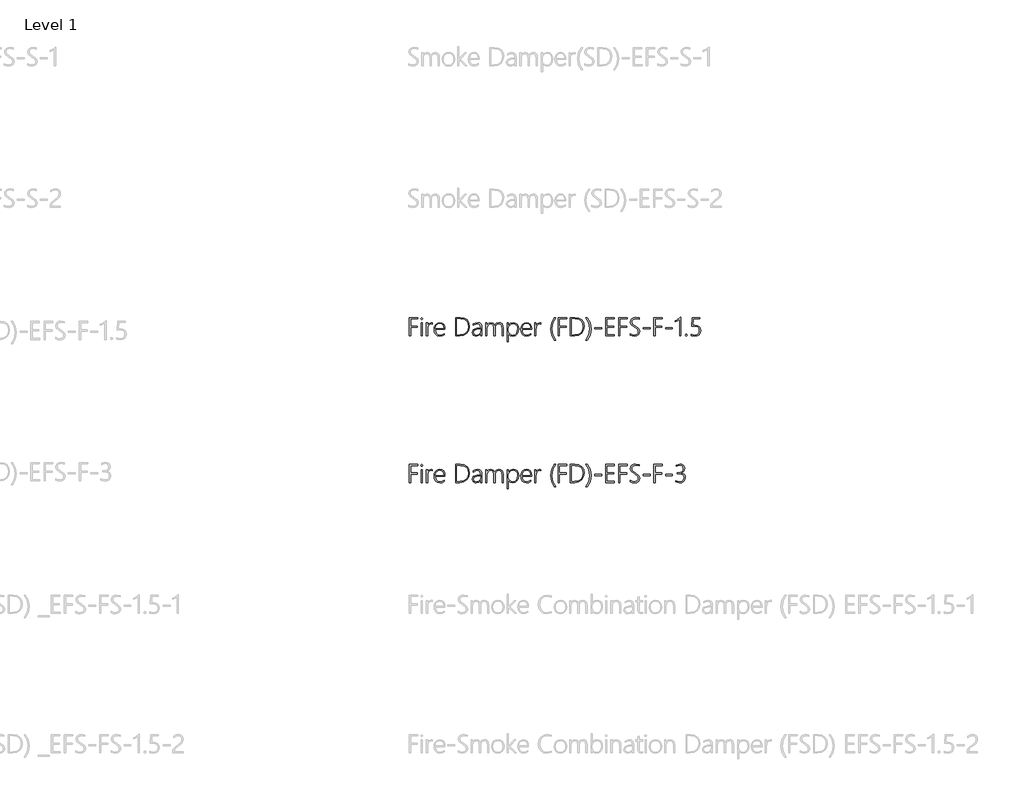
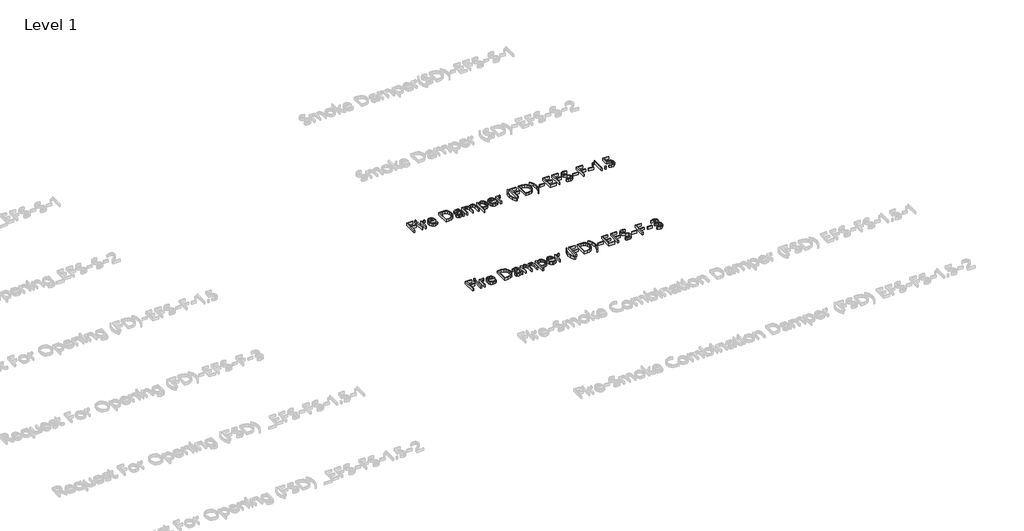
# One storey, part 10 of 13: 2 proxies.
"""IFC4 building model written with IfcOpenShell, lengths in millimetres."""

from ifc_helpers import new_model, si_unit, origin, origin_with_axes, place, context, project, spatial, polyline, outline, extrude, element, save

model = new_model("IFC4")

# Units and contexts
model_context = context("Model", 3, world=origin())
ifc_project = project(units=[si_unit("LENGTHUNIT", "METRE", prefix="MILLI")], contexts=[model_context])

# Site, building, storey
site = spatial("IfcSite", under=ifc_project)
building = spatial("IfcBuilding", under=site)
storey = spatial("IfcBuildingStorey", under=building, Name="Level 1", Elevation=0.0)

# Proxies
placement = place(None, origin())
element("IfcBuildingElementProxy", 1, Name="24\" Arial", ObjectType="24\" Arial", at=placement, inside=storey, context=model_context, shape_type="SweptSolid", body=[
    extrude(outline(polyline([(-11432.1552252, 7848.844524), (-11432.1552252, 7808.0508885), (-11395.1999406, 7808.0508885), (-11395.1999406, 7801.7726558), (-11432.1552252, 7801.7726558), (-11432.1552252, 7755.1768621), (-11439.0583058, 7755.1768621), (-11439.0583058, 7855.1822661), (-11392.3137388, 7855.1822661), (-11392.3137388, 7848.844524), (-11432.1552252, 7848.844524)])), origin_with_axes(), (0.0, 0.0, 1.0), 20.0),
    extrude(outline(polyline([(-11370.6523481, 7844.589608), (-11374.3419256, 7846.1219729), (-11375.9486771, 7850.0347103), (-11374.312171, 7853.7540425), (-11370.6523481, 7855.1822661), (-11366.8437519, 7853.7837972), (-11365.2072458, 7850.0347103), (-11366.8139973, 7846.1963595), (-11370.6523481, 7844.589608)])), origin_with_axes(), (0.0, 0.0, 1.0), 20.0),
    extrude(outline(polyline([(-11373.8063418, 7755.1768621), (-11373.8063418, 7826.5880402), (-11367.3793358, 7826.5880402), (-11367.3793358, 7755.1768621), (-11373.8063418, 7755.1768621)])), origin_with_axes(), (0.0, 0.0, 1.0), 20.0),
    extrude(outline(polyline([(-11311.5595982, 7819.8932422), (-11319.0875266, 7822.1843509), (-11326.8348955, 7820.0048222), (-11333.2358662, 7813.4662362), (-11337.5316949, 7802.9182101), (-11338.9636378, 7788.7103611), (-11338.9636378, 7755.1768621), (-11345.2418706, 7755.1768621), (-11345.2418706, 7826.5880402), (-11338.9636378, 7826.5880402), (-11338.9636378, 7810.7585624), (-11330.9298803, 7823.4489238), (-11318.6709614, 7827.9865091), (-11311.5595982, 7826.7368135), (-11311.5595982, 7819.8932422)])), origin_with_axes(), (0.0, 0.0, 1.0), 20.0),
    extrude(outline(polyline([(-11296.0871763, 7790.6146592), (-11294.3874415, 7777.4928552), (-11289.288237, 7767.5845543), (-11281.2284442, 7761.3583922), (-11270.6469441, 7759.2830048), (-11258.7748357, 7761.4997268), (-11247.2002739, 7768.1498928), (-11247.2002739, 7761.3063215), (-11258.9384863, 7755.3925834), (-11271.956149, 7753.4213373), (-11284.4382279, 7755.8984125), (-11294.2721422, 7763.3296383), (-11300.6545162, 7775.2761333), (-11302.7819742, 7791.2990163), (-11300.5578136, 7805.6928319), (-11293.8853316, 7817.6318883), (-11283.6571681, 7825.6656458), (-11270.7659627, 7828.343565), (-11259.0091537, 7826.004105), (-11250.3393903, 7818.9857252), (-11244.99471, 7807.9281506), (-11243.2131498, 7793.4711063), (-11243.2131498, 7790.6146592), (-11296.0871763, 7790.6146592)]), holes=[polyline([(-11249.9079478, 7796.4763268), (-11251.6188406, 7807.4260407), (-11255.8588793, 7815.6383262), (-11262.4123426, 7820.7710046), (-11271.0635093, 7822.4818974), (-11280.2316631, 7820.79704), (-11287.6814855, 7815.7424675), (-11293.0112886, 7807.5562174), (-11295.8193844, 7796.4763268), (-11249.9079478, 7796.4763268)])]), origin_with_axes(), (0.0, 0.0, 1.0), 20.0),
    extrude(outline(polyline([(-11183.8823627, 7755.1768621), (-11183.8823627, 7855.1822661), (-11158.828941, 7855.1822661), (-11136.9295131, 7852.080343), (-11120.9810166, 7842.7745739), (-11111.2512436, 7827.5178732), (-11108.0079859, 7806.5631557), (-11111.4855615, 7785.8576333), (-11121.9182883, 7769.4442204), (-11138.4730359, 7758.7437017), (-11160.3166739, 7755.1768621), (-11183.8823627, 7755.1768621)]), holes=[polyline([(-11176.9792821, 7848.844524), (-11176.9792821, 7761.4550948), (-11161.268823, 7761.4550948), (-11141.6158716, 7764.3412966), (-11127.1104761, 7772.999902), (-11118.1617628, 7787.096171), (-11115.1788584, 7806.2953637), (-11117.9720769, 7824.9106214), (-11126.3517323, 7838.207234), (-11140.3178247, 7846.1852015), (-11159.870354, 7848.844524), (-11176.9792821, 7848.844524)])]), origin_with_axes(), (0.0, 0.0, 1.0), 20.0),
    extrude(outline(polyline([(-11045.4636958, 7755.1768621), (-11045.4636958, 7769.4590977), (-11055.6844207, 7757.7803946), (-11070.1600616, 7753.4213373), (-11079.2761448, 7754.8532802), (-11086.2722086, 7759.1491089), (-11090.7242492, 7765.6244662), (-11092.2082628, 7773.5949951), (-11090.6610206, 7782.0137035), (-11086.019294, 7788.5839038), (-11067.4523877, 7796.1787802), (-11045.4636958, 7799.4517925), (-11049.7855598, 7816.7243712), (-11055.1878898, 7821.0425159), (-11062.7511518, 7822.4818974), (-11074.4001003, 7820.1089635), (-11085.7217474, 7812.9901617), (-11085.7217474, 7820.7263727), (-11074.9356841, 7826.1119657), (-11062.126304, 7828.343565), (-11052.363057, 7826.6326722), (-11045.0917626, 7821.4999938), (-11040.572774, 7813.1091803), (-11039.0664444, 7801.6238825), (-11039.0664444, 7755.1768621), (-11045.4636958, 7755.1768621)]), holes=[polyline([(-11065.1315244, 7790.7336778), (-11080.9014929, 7785.5414901), (-11085.4242009, 7773.862787), (-11081.2139168, 7763.4040249), (-11069.4459498, 7759.2830048), (-11060.0137233, 7761.1947416), (-11052.307267, 7766.9299518), (-11047.1745886, 7775.6778211), (-11045.4636958, 7786.6275351), (-11045.4636958, 7793.590125), (-11065.1315244, 7790.7336778)])]), origin_with_axes(), (0.0, 0.0, 1.0), 20.0),
    extrude(outline(polyline([(-10928.1410811, 7755.1768621), (-10928.1410811, 7798.1425876), (-10932.3662425, 7817.0367951), (-10937.8187835, 7821.1206219), (-10945.7260837, 7822.4818974), (-10953.577594, 7820.6668633), (-10960.2909886, 7815.221761), (-10964.8992412, 7807.0392302), (-10966.4353253, 7797.0119106), (-10966.4353253, 7755.1768621), (-10972.8623314, 7755.1768621), (-10972.8623314, 7798.6186621), (-10977.392478, 7816.5160886), (-10983.0551613, 7820.9904452), (-10990.9829178, 7822.4818974), (-10998.968324, 7820.6594247), (-11005.4883134, 7815.1920064), (-11009.828774, 7806.8309476), (-11011.2755943, 7796.3275535), (-11011.2755943, 7755.1768621), (-11017.7026003, 7755.1768621), (-11017.7026003, 7826.5880402), (-11011.2755943, 7826.5880402), (-11011.2755943, 7814.7456865), (-11001.8136132, 7824.9440954), (-10989.1678837, 7828.343565), (-10975.8229198, 7823.8357344), (-10968.3098688, 7812.008258), (-10958.728869, 7824.044017), (-10945.1607452, 7828.343565), (-10934.9158447, 7826.5303905), (-10927.5980586, 7821.0908672), (-10923.2073869, 7812.024995), (-10921.7438297, 7799.3327739), (-10921.7438297, 7755.1768621), (-10928.1410811, 7755.1768621)])), origin_with_axes(), (0.0, 0.0, 1.0), 20.0),
    extrude(outline(polyline([(-10892.9413212, 7767.8821009), (-10893.2091131, 7722.3277202), (-10899.6361192, 7722.3277202), (-10899.6361192, 7826.5880402), (-10893.2091131, 7826.5880402), (-10893.2091131, 7811.8594847), (-10881.9469753, 7824.044017), (-10866.2216387, 7828.343565), (-10854.1152124, 7825.9966664), (-10844.9916906, 7818.9559705), (-10839.2676383, 7807.8909573), (-10837.3596209, 7793.4711063), (-10839.5465882, 7777.2510986), (-10846.1074902, 7764.4751926), (-10856.2612671, 7756.1848011), (-10869.2268591, 7753.4213373), (-10883.1743549, 7757.0365282), (-10892.9413212, 7767.8821009)]), holes=[polyline([(-10893.2091131, 7794.45301), (-10893.2091131, 7785.4373488), (-10891.516817, 7775.4546612), (-10886.4399285, 7766.9894611), (-10878.6107343, 7761.2096189), (-10868.6615207, 7759.2830048), (-10858.7420617, 7761.6299034), (-10850.8831128, 7768.6705993), (-10845.7615923, 7779.52733), (-10844.0544189, 7793.3223331), (-10845.6239771, 7805.335776), (-10850.3326516, 7814.5969132), (-10857.6522974, 7820.5106514), (-10867.0547691, 7822.4818974), (-10878.1346598, 7820.3879134), (-10886.3804192, 7814.1059614), (-10891.5019397, 7805.0047555), (-10893.2091131, 7794.45301)])]), origin_with_axes(), (0.0, 0.0, 1.0), 20.0),
    extrude(outline(polyline([(-10818.1083575, 7790.6146592), (-10816.4086227, 7777.4928552), (-10811.3094182, 7767.5845543), (-10803.2496254, 7761.3583922), (-10792.6681253, 7759.2830048), (-10780.7960169, 7761.4997268), (-10769.2214551, 7768.1498928), (-10769.2214551, 7761.3063215), (-10780.9596675, 7755.3925834), (-10793.9773302, 7753.4213373), (-10806.4594091, 7755.8984125), (-10816.2933234, 7763.3296383), (-10822.6756974, 7775.2761333), (-10824.8031554, 7791.2990163), (-10822.5789948, 7805.6928319), (-10815.9065128, 7817.6318883), (-10805.6783493, 7825.6656458), (-10792.7871439, 7828.343565), (-10781.0303349, 7826.004105), (-10772.3605715, 7818.9857252), (-10767.0158912, 7807.9281506), (-10765.234331, 7793.4711063), (-10765.234331, 7790.6146592), (-10818.1083575, 7790.6146592)]), holes=[polyline([(-10771.929129, 7796.4763268), (-10773.6400218, 7807.4260407), (-10777.8800605, 7815.6383262), (-10784.4335238, 7820.7710046), (-10793.0846905, 7822.4818974), (-10802.2528443, 7820.79704), (-10809.7026667, 7815.7424675), (-10815.0324698, 7807.5562174), (-10817.8405656, 7796.4763268), (-10771.929129, 7796.4763268)])]), origin_with_axes(), (0.0, 0.0, 1.0), 20.0),
    extrude(outline(polyline([(-10713.6100002, 7819.8932422), (-10721.1379285, 7822.1843509), (-10728.8852975, 7820.0048222), (-10735.2862682, 7813.4662362), (-10739.5820969, 7802.9182101), (-10741.0140398, 7788.7103611), (-10741.0140398, 7755.1768621), (-10747.2922725, 7755.1768621), (-10747.2922725, 7826.5880402), (-10741.0140398, 7826.5880402), (-10741.0140398, 7810.7585624), (-10732.9802823, 7823.4489238), (-10720.7213633, 7827.9865091), (-10713.6100002, 7826.7368135), (-10713.6100002, 7819.8932422)])), origin_with_axes(), (0.0, 0.0, 1.0), 20.0),
    extrude(outline(polyline([(-10639.5209029, 7732.4443037), (-10655.365258, 7759.9748006), (-10660.6467098, 7793.1735598), (-10655.2983101, 7827.5104346), (-10639.253111, 7855.1822661), (-10632.4095398, 7855.1822661), (-10648.7894787, 7827.1608173), (-10654.2494584, 7793.3223331), (-10648.8638654, 7760.7707377), (-10632.7070863, 7732.4443037), (-10639.5209029, 7732.4443037)])), origin_with_axes(), (0.0, 0.0, 1.0), 20.0),
    extrude(outline(polyline([(-10611.4027515, 7848.844524), (-10611.4027515, 7808.0508885), (-10574.4474669, 7808.0508885), (-10574.4474669, 7801.7726558), (-10611.4027515, 7801.7726558), (-10611.4027515, 7755.1768621), (-10618.3058321, 7755.1768621), (-10618.3058321, 7855.1822661), (-10571.5612651, 7855.1822661), (-10571.5612651, 7848.844524), (-10611.4027515, 7848.844524)])), origin_with_axes(), (0.0, 0.0, 1.0), 20.0),
    extrude(outline(polyline([(-10551.6553992, 7755.1768621), (-10551.6553992, 7855.1822661), (-10526.6019775, 7855.1822661), (-10504.7025496, 7852.080343), (-10488.7540531, 7842.7745739), (-10479.0242801, 7827.5178732), (-10475.7810224, 7806.5631557), (-10479.258598, 7785.8576333), (-10489.6913248, 7769.4442204), (-10506.2460724, 7758.7437017), (-10528.0897104, 7755.1768621), (-10551.6553992, 7755.1768621)]), holes=[polyline([(-10544.7523186, 7848.844524), (-10544.7523186, 7761.4550948), (-10529.0418594, 7761.4550948), (-10509.3889081, 7764.3412966), (-10494.8835126, 7772.999902), (-10485.9347993, 7787.096171), (-10482.9518949, 7806.2953637), (-10485.7451134, 7824.9106214), (-10494.1247688, 7838.207234), (-10508.0908612, 7846.1852015), (-10527.6433905, 7848.844524), (-10544.7523186, 7848.844524)])]), origin_with_axes(), (0.0, 0.0, 1.0), 20.0),
    extrude(outline(polyline([(-10458.6423397, 7732.4443037), (-10465.4859109, 7732.4443037), (-10449.3068159, 7760.7707377), (-10443.9137842, 7793.3223331), (-10449.3737639, 7827.1608173), (-10465.7537028, 7855.1822661), (-10458.9101316, 7855.1822661), (-10442.8649325, 7827.4360479), (-10437.5165328, 7793.1735598), (-10442.7979845, 7759.900414), (-10458.6423397, 7732.4443037)])), origin_with_axes(), (0.0, 0.0, 1.0), 20.0),
    extrude(outline(polyline([(-10417.253611, 7793.8876715), (-10417.253611, 7800.1659043), (-10379.1081401, 7800.1659043), (-10379.1081401, 7793.8876715), (-10417.253611, 7793.8876715)])), origin_with_axes(), (0.0, 0.0, 1.0), 20.0),
    extrude(outline(polyline([(-10357.4169947, 7755.1768621), (-10357.4169947, 7855.1822661), (-10310.6724277, 7855.1822661), (-10310.6724277, 7848.844524), (-10350.5139142, 7848.844524), (-10350.5139142, 7808.7352457), (-10313.5586295, 7808.7352457), (-10313.5586295, 7802.4570129), (-10350.5139142, 7802.4570129), (-10350.5139142, 7761.4550948), (-10308.3813191, 7761.4550948), (-10308.3813191, 7755.1768621), (-10357.4169947, 7755.1768621)])), origin_with_axes(), (0.0, 0.0, 1.0), 20.0),
    extrude(outline(polyline([(-10278.150587, 7848.844524), (-10278.150587, 7808.0508885), (-10241.1953024, 7808.0508885), (-10241.1953024, 7801.7726558), (-10278.150587, 7801.7726558), (-10278.150587, 7755.1768621), (-10285.0536676, 7755.1768621), (-10285.0536676, 7855.1822661), (-10238.3091006, 7855.1822661), (-10238.3091006, 7848.844524), (-10278.150587, 7848.844524)])), origin_with_axes(), (0.0, 0.0, 1.0), 20.0),
    extrude(outline(polyline([(-10221.5274737, 7758.747421), (-10221.5274737, 7766.6026506), (-10210.7190944, 7761.4922881), (-10199.776819, 7759.788834), (-10181.9835338, 7764.6239659), (-10177.4310712, 7770.4298434), (-10175.9135837, 7778.1772124), (-10180.0048491, 7790.4212539), (-10197.693993, 7802.8735781), (-10216.9303791, 7817.7062749), (-10220.9621352, 7831.467804), (-10218.9053445, 7841.2608057), (-10212.7349724, 7849.4544945), (-10203.135376, 7855.0000188), (-10190.7909125, 7856.8485269), (-10172.9381179, 7853.8433065), (-10172.9381179, 7846.6129247), (-10191.6835522, 7850.5702942), (-10207.8254539, 7845.4078611), (-10212.2998105, 7839.5499129), (-10213.7912628, 7832.3009344), (-10209.7148747, 7820.1015248), (-10192.1001174, 7807.753342), (-10173.4439471, 7793.634757), (-10168.8022205, 7779.4566626), (-10170.7995019, 7769.0053392), (-10176.7913461, 7760.6814737), (-10186.4281358, 7755.2363714), (-10199.3602538, 7753.4213373), (-10211.2472395, 7755.0280888), (-10221.5274737, 7758.747421)])), origin_with_axes(), (0.0, 0.0, 1.0), 20.0),
    extrude(outline(polyline([(-10150.6518794, 7793.8876715), (-10150.6518794, 7800.1659043), (-10112.5064085, 7800.1659043), (-10112.5064085, 7793.8876715), (-10150.6518794, 7793.8876715)])), origin_with_axes(), (0.0, 0.0, 1.0), 20.0),
    extrude(outline(polyline([(-10083.9121826, 7848.844524), (-10083.9121826, 7808.0508885), (-10046.9568979, 7808.0508885), (-10046.9568979, 7801.7726558), (-10083.9121826, 7801.7726558), (-10083.9121826, 7755.1768621), (-10090.8152631, 7755.1768621), (-10090.8152631, 7855.1822661), (-10044.0706961, 7855.1822661), (-10044.0706961, 7848.844524), (-10083.9121826, 7848.844524)])), origin_with_axes(), (0.0, 0.0, 1.0), 20.0),
    extrude(outline(polyline([(-10026.8725041, 7793.8876715), (-10026.8725041, 7800.1659043), (-9988.7270331, 7800.1659043), (-9988.7270331, 7793.8876715), (-10026.8725041, 7793.8876715)])), origin_with_axes(), (0.0, 0.0, 1.0), 20.0),
    extrude(outline(polyline([(-9943.1726524, 7857.4138654), (-9943.1726524, 7755.1768621), (-9949.5996584, 7755.1768621), (-9949.5996584, 7847.2972818), (-9960.579127, 7839.3379109), (-9974.0579869, 7833.4316114), (-9974.0579869, 7839.293279), (-9965.9200881, 7842.596046), (-9958.7045836, 7846.672434), (-9952.0097857, 7851.5819525), (-9945.4042517, 7857.4138654), (-9943.1726524, 7857.4138654)])), origin_with_axes(), (0.0, 0.0, 1.0), 20.0),
    extrude(outline(polyline([(-9912.6146191, 7753.9271665), (-9916.5868659, 7755.5636726), (-9918.17874, 7759.5805514), (-9916.5868659, 7763.5825528), (-9912.6146191, 7765.1446724), (-9908.5679857, 7763.5825528), (-9906.9017248, 7759.5805514), (-9908.5679857, 7755.5636726), (-9912.6146191, 7753.9271665)])), origin_with_axes(), (0.0, 0.0, 1.0), 20.0),
    extrude(outline(polyline([(-9884.9130329, 7757.2001788), (-9884.9130329, 7764.5793339), (-9865.8105428, 7759.2830048), (-9854.8682675, 7760.975301), (-9846.6187886, 7766.0521894), (-9841.4414782, 7773.9334543), (-9839.7157081, 7784.0388799), (-9841.4544959, 7794.726381), (-9846.6708593, 7802.3603103), (-9855.3647983, 7806.9406679), (-9867.5363129, 7808.4674537), (-9881.9078125, 7807.6343233), (-9878.9025921, 7855.1822661), (-9837.2758262, 7855.1822661), (-9837.2758262, 7849.3205986), (-9873.1896978, 7849.3205986), (-9875.5105611, 7813.7637828), (-9865.185695, 7814.3291213), (-9851.2716732, 7812.3839105), (-9841.1885636, 7806.5482783), (-9835.0628235, 7797.2387899), (-9833.0209102, 7784.8720103), (-9835.1818422, 7772.1816489), (-9841.6646382, 7762.1394519), (-9852.1643129, 7755.600866), (-9866.3758813, 7753.4213373), (-9884.9130329, 7757.2001788)])), origin_with_axes(), (0.0, 0.0, 1.0), 20.0),
])
element("IfcBuildingElementProxy", 2, Name="24\" Arial", ObjectType="24\" Arial", at=placement, inside=storey, context=model_context, shape_type="SweptSolid", body=[
    extrude(outline(polyline([(-11432.1552252, 7040.379603), (-11432.1552252, 6999.5859675), (-11395.1999406, 6999.5859675), (-11395.1999406, 6993.3077347), (-11432.1552252, 6993.3077347), (-11432.1552252, 6946.711941), (-11439.0583058, 6946.711941), (-11439.0583058, 7046.717345), (-11392.3137388, 7046.717345), (-11392.3137388, 7040.379603), (-11432.1552252, 7040.379603)])), origin_with_axes(), (0.0, 0.0, 1.0), 20.0),
    extrude(outline(polyline([(-11370.6523481, 7036.1246869), (-11374.3419256, 7037.6570518), (-11375.9486771, 7041.5697893), (-11374.312171, 7045.2891214), (-11370.6523481, 7046.717345), (-11366.8437519, 7045.3188761), (-11365.2072458, 7041.5697893), (-11366.8139973, 7037.7314384), (-11370.6523481, 7036.1246869)])), origin_with_axes(), (0.0, 0.0, 1.0), 20.0),
    extrude(outline(polyline([(-11373.8063418, 6946.711941), (-11373.8063418, 7018.1231191), (-11367.3793358, 7018.1231191), (-11367.3793358, 6946.711941), (-11373.8063418, 6946.711941)])), origin_with_axes(), (0.0, 0.0, 1.0), 20.0),
    extrude(outline(polyline([(-11311.5595982, 7011.4283212), (-11319.0875266, 7013.7194298), (-11326.8348955, 7011.5399011), (-11333.2358662, 7005.0013151), (-11337.5316949, 6994.453289), (-11338.9636378, 6980.2454401), (-11338.9636378, 6946.711941), (-11345.2418706, 6946.711941), (-11345.2418706, 7018.1231191), (-11338.9636378, 7018.1231191), (-11338.9636378, 7002.2936413), (-11330.9298803, 7014.9840027), (-11318.6709614, 7019.521588), (-11311.5595982, 7018.2718924), (-11311.5595982, 7011.4283212)])), origin_with_axes(), (0.0, 0.0, 1.0), 20.0),
    extrude(outline(polyline([(-11296.0871763, 6982.1497381), (-11294.3874415, 6969.0279342), (-11289.288237, 6959.1196332), (-11281.2284442, 6952.8934711), (-11270.6469441, 6950.8180837), (-11258.7748357, 6953.0348057), (-11247.2002739, 6959.6849717), (-11247.2002739, 6952.8414005), (-11258.9384863, 6946.9276623), (-11271.956149, 6944.9564162), (-11284.4382279, 6947.4334914), (-11294.2721422, 6954.8647172), (-11300.6545162, 6966.8112122), (-11302.7819742, 6982.8340953), (-11300.5578136, 6997.2279108), (-11293.8853316, 7009.1669672), (-11283.6571681, 7017.2007247), (-11270.7659627, 7019.8786439), (-11259.0091537, 7017.539184), (-11250.3393903, 7010.5208041), (-11244.99471, 6999.4632295), (-11243.2131498, 6985.0061853), (-11243.2131498, 6982.1497381), (-11296.0871763, 6982.1497381)]), holes=[polyline([(-11249.9079478, 6988.0114057), (-11251.6188406, 6998.9611197), (-11255.8588793, 7007.1734051), (-11262.4123426, 7012.3060836), (-11271.0635093, 7014.0169764), (-11280.2316631, 7012.3321189), (-11287.6814855, 7007.2775464), (-11293.0112886, 6999.0912963), (-11295.8193844, 6988.0114057), (-11249.9079478, 6988.0114057)])]), origin_with_axes(), (0.0, 0.0, 1.0), 20.0),
    extrude(outline(polyline([(-11183.8823627, 6946.711941), (-11183.8823627, 7046.717345), (-11158.828941, 7046.717345), (-11136.9295131, 7043.615422), (-11120.9810166, 7034.3096528), (-11111.2512436, 7019.0529522), (-11108.0079859, 6998.0982346), (-11111.4855615, 6977.3927123), (-11121.9182883, 6960.9792993), (-11138.4730359, 6950.2787806), (-11160.3166739, 6946.711941), (-11183.8823627, 6946.711941)]), holes=[polyline([(-11176.9792821, 7040.379603), (-11176.9792821, 6952.9901737), (-11161.268823, 6952.9901737), (-11141.6158716, 6955.8763755), (-11127.1104761, 6964.5349809), (-11118.1617628, 6978.6312499), (-11115.1788584, 6997.8304427), (-11117.9720769, 7016.4457003), (-11126.3517323, 7029.7423129), (-11140.3178247, 7037.7202804), (-11159.870354, 7040.379603), (-11176.9792821, 7040.379603)])]), origin_with_axes(), (0.0, 0.0, 1.0), 20.0),
    extrude(outline(polyline([(-11045.4636958, 6946.711941), (-11045.4636958, 6960.9941766), (-11055.6844207, 6949.3154735), (-11070.1600616, 6944.9564162), (-11079.2761448, 6946.3883591), (-11086.2722086, 6950.6841878), (-11090.7242492, 6957.1595451), (-11092.2082628, 6965.130074), (-11090.6610206, 6973.5487824), (-11086.019294, 6980.1189828), (-11067.4523877, 6987.7138591), (-11045.4636958, 6990.9868714), (-11049.7855598, 7008.2594501), (-11055.1878898, 7012.5775948), (-11062.7511518, 7014.0169764), (-11074.4001003, 7011.6440424), (-11085.7217474, 7004.5252406), (-11085.7217474, 7012.2614516), (-11074.9356841, 7017.6470446), (-11062.126304, 7019.8786439), (-11052.363057, 7018.1677511), (-11045.0917626, 7013.0350727), (-11040.572774, 7004.6442592), (-11039.0664444, 6993.1589614), (-11039.0664444, 6946.711941), (-11045.4636958, 6946.711941)]), holes=[polyline([(-11065.1315244, 6982.2687568), (-11080.9014929, 6977.076569), (-11085.4242009, 6965.3978659), (-11081.2139168, 6954.9391038), (-11069.4459498, 6950.8180837), (-11060.0137233, 6952.7298205), (-11052.307267, 6958.4650307), (-11047.1745886, 6967.2129001), (-11045.4636958, 6978.162614), (-11045.4636958, 6985.1252039), (-11065.1315244, 6982.2687568)])]), origin_with_axes(), (0.0, 0.0, 1.0), 20.0),
    extrude(outline(polyline([(-10928.1410811, 6946.711941), (-10928.1410811, 6989.6776665), (-10932.3662425, 7008.571874), (-10937.8187835, 7012.6557008), (-10945.7260837, 7014.0169764), (-10953.577594, 7012.2019423), (-10960.2909886, 7006.7568399), (-10964.8992412, 6998.5743091), (-10966.4353253, 6988.5469895), (-10966.4353253, 6946.711941), (-10972.8623314, 6946.711941), (-10972.8623314, 6990.153741), (-10977.392478, 7008.0511675), (-10983.0551613, 7012.5255242), (-10990.9829178, 7014.0169764), (-10998.968324, 7012.1945036), (-11005.4883134, 7006.7270853), (-11009.828774, 6998.3660265), (-11011.2755943, 6987.8626324), (-11011.2755943, 6946.711941), (-11017.7026003, 6946.711941), (-11017.7026003, 7018.1231191), (-11011.2755943, 7018.1231191), (-11011.2755943, 7006.2807654), (-11001.8136132, 7016.4791743), (-10989.1678837, 7019.8786439), (-10975.8229198, 7015.3708133), (-10968.3098688, 7003.5433369), (-10958.728869, 7015.5790959), (-10945.1607452, 7019.8786439), (-10934.9158447, 7018.0654695), (-10927.5980586, 7012.6259461), (-10923.2073869, 7003.5600739), (-10921.7438297, 6990.8678528), (-10921.7438297, 6946.711941), (-10928.1410811, 6946.711941)])), origin_with_axes(), (0.0, 0.0, 1.0), 20.0),
    extrude(outline(polyline([(-10892.9413212, 6959.4171798), (-10893.2091131, 6913.8627991), (-10899.6361192, 6913.8627991), (-10899.6361192, 7018.1231191), (-10893.2091131, 7018.1231191), (-10893.2091131, 7003.3945636), (-10881.9469753, 7015.5790959), (-10866.2216387, 7019.8786439), (-10854.1152124, 7017.5317453), (-10844.9916906, 7010.4910495), (-10839.2676383, 6999.4260362), (-10837.3596209, 6985.0061853), (-10839.5465882, 6968.7861776), (-10846.1074902, 6956.0102715), (-10856.2612671, 6947.71988), (-10869.2268591, 6944.9564162), (-10883.1743549, 6948.5716071), (-10892.9413212, 6959.4171798)]), holes=[polyline([(-10893.2091131, 6985.988089), (-10893.2091131, 6976.9724277), (-10891.516817, 6966.9897401), (-10886.4399285, 6958.52454), (-10878.6107343, 6952.7446978), (-10868.6615207, 6950.8180837), (-10858.7420617, 6953.1649824), (-10850.8831128, 6960.2056782), (-10845.7615923, 6971.0624089), (-10844.0544189, 6984.857412), (-10845.6239771, 6996.870855), (-10850.3326516, 7006.1319921), (-10857.6522974, 7012.0457303), (-10867.0547691, 7014.0169764), (-10878.1346598, 7011.9229923), (-10886.3804192, 7005.6410403), (-10891.5019397, 6996.5398344), (-10893.2091131, 6985.988089)])]), origin_with_axes(), (0.0, 0.0, 1.0), 20.0),
    extrude(outline(polyline([(-10818.1083575, 6982.1497381), (-10816.4086227, 6969.0279342), (-10811.3094182, 6959.1196332), (-10803.2496254, 6952.8934711), (-10792.6681253, 6950.8180837), (-10780.7960169, 6953.0348057), (-10769.2214551, 6959.6849717), (-10769.2214551, 6952.8414005), (-10780.9596675, 6946.9276623), (-10793.9773302, 6944.9564162), (-10806.4594091, 6947.4334914), (-10816.2933234, 6954.8647172), (-10822.6756974, 6966.8112122), (-10824.8031554, 6982.8340953), (-10822.5789948, 6997.2279108), (-10815.9065128, 7009.1669672), (-10805.6783493, 7017.2007247), (-10792.7871439, 7019.8786439), (-10781.0303349, 7017.539184), (-10772.3605715, 7010.5208041), (-10767.0158912, 6999.4632295), (-10765.234331, 6985.0061853), (-10765.234331, 6982.1497381), (-10818.1083575, 6982.1497381)]), holes=[polyline([(-10771.929129, 6988.0114057), (-10773.6400218, 6998.9611197), (-10777.8800605, 7007.1734051), (-10784.4335238, 7012.3060836), (-10793.0846905, 7014.0169764), (-10802.2528443, 7012.3321189), (-10809.7026667, 7007.2775464), (-10815.0324698, 6999.0912963), (-10817.8405656, 6988.0114057), (-10771.929129, 6988.0114057)])]), origin_with_axes(), (0.0, 0.0, 1.0), 20.0),
    extrude(outline(polyline([(-10713.6100002, 7011.4283212), (-10721.1379285, 7013.7194298), (-10728.8852975, 7011.5399011), (-10735.2862682, 7005.0013151), (-10739.5820969, 6994.453289), (-10741.0140398, 6980.2454401), (-10741.0140398, 6946.711941), (-10747.2922725, 6946.711941), (-10747.2922725, 7018.1231191), (-10741.0140398, 7018.1231191), (-10741.0140398, 7002.2936413), (-10732.9802823, 7014.9840027), (-10720.7213633, 7019.521588), (-10713.6100002, 7018.2718924), (-10713.6100002, 7011.4283212)])), origin_with_axes(), (0.0, 0.0, 1.0), 20.0),
    extrude(outline(polyline([(-10639.5209029, 6923.9793826), (-10655.365258, 6951.5098795), (-10660.6467098, 6984.7086387), (-10655.2983101, 7019.0455135), (-10639.253111, 7046.717345), (-10632.4095398, 7046.717345), (-10648.7894787, 7018.6958963), (-10654.2494584, 6984.857412), (-10648.8638654, 6952.3058166), (-10632.7070863, 6923.9793826), (-10639.5209029, 6923.9793826)])), origin_with_axes(), (0.0, 0.0, 1.0), 20.0),
    extrude(outline(polyline([(-10611.4027515, 7040.379603), (-10611.4027515, 6999.5859675), (-10574.4474669, 6999.5859675), (-10574.4474669, 6993.3077347), (-10611.4027515, 6993.3077347), (-10611.4027515, 6946.711941), (-10618.3058321, 6946.711941), (-10618.3058321, 7046.717345), (-10571.5612651, 7046.717345), (-10571.5612651, 7040.379603), (-10611.4027515, 7040.379603)])), origin_with_axes(), (0.0, 0.0, 1.0), 20.0),
    extrude(outline(polyline([(-10551.6553992, 6946.711941), (-10551.6553992, 7046.717345), (-10526.6019775, 7046.717345), (-10504.7025496, 7043.615422), (-10488.7540531, 7034.3096528), (-10479.0242801, 7019.0529522), (-10475.7810224, 6998.0982346), (-10479.258598, 6977.3927123), (-10489.6913248, 6960.9792993), (-10506.2460724, 6950.2787806), (-10528.0897104, 6946.711941), (-10551.6553992, 6946.711941)]), holes=[polyline([(-10544.7523186, 7040.379603), (-10544.7523186, 6952.9901737), (-10529.0418594, 6952.9901737), (-10509.3889081, 6955.8763755), (-10494.8835126, 6964.5349809), (-10485.9347993, 6978.6312499), (-10482.9518949, 6997.8304427), (-10485.7451134, 7016.4457003), (-10494.1247688, 7029.7423129), (-10508.0908612, 7037.7202804), (-10527.6433905, 7040.379603), (-10544.7523186, 7040.379603)])]), origin_with_axes(), (0.0, 0.0, 1.0), 20.0),
    extrude(outline(polyline([(-10458.6423397, 6923.9793826), (-10465.4859109, 6923.9793826), (-10449.3068159, 6952.3058166), (-10443.9137842, 6984.857412), (-10449.3737639, 7018.6958963), (-10465.7537028, 7046.717345), (-10458.9101316, 7046.717345), (-10442.8649325, 7018.9711269), (-10437.5165328, 6984.7086387), (-10442.7979845, 6951.4354929), (-10458.6423397, 6923.9793826)])), origin_with_axes(), (0.0, 0.0, 1.0), 20.0),
    extrude(outline(polyline([(-10417.253611, 6985.4227505), (-10417.253611, 6991.7009832), (-10379.1081401, 6991.7009832), (-10379.1081401, 6985.4227505), (-10417.253611, 6985.4227505)])), origin_with_axes(), (0.0, 0.0, 1.0), 20.0),
    extrude(outline(polyline([(-10357.4169947, 6946.711941), (-10357.4169947, 7046.717345), (-10310.6724277, 7046.717345), (-10310.6724277, 7040.379603), (-10350.5139142, 7040.379603), (-10350.5139142, 7000.2703246), (-10313.5586295, 7000.2703246), (-10313.5586295, 6993.9920918), (-10350.5139142, 6993.9920918), (-10350.5139142, 6952.9901737), (-10308.3813191, 6952.9901737), (-10308.3813191, 6946.711941), (-10357.4169947, 6946.711941)])), origin_with_axes(), (0.0, 0.0, 1.0), 20.0),
    extrude(outline(polyline([(-10278.150587, 7040.379603), (-10278.150587, 6999.5859675), (-10241.1953024, 6999.5859675), (-10241.1953024, 6993.3077347), (-10278.150587, 6993.3077347), (-10278.150587, 6946.711941), (-10285.0536676, 6946.711941), (-10285.0536676, 7046.717345), (-10238.3091006, 7046.717345), (-10238.3091006, 7040.379603), (-10278.150587, 7040.379603)])), origin_with_axes(), (0.0, 0.0, 1.0), 20.0),
    extrude(outline(polyline([(-10221.5274737, 6950.2824999), (-10221.5274737, 6958.1377295), (-10210.7190944, 6953.0273671), (-10199.776819, 6951.3239129), (-10181.9835338, 6956.1590448), (-10177.4310712, 6961.9649223), (-10175.9135837, 6969.7122913), (-10180.0048491, 6981.9563329), (-10197.693993, 6994.408657), (-10216.9303791, 7009.2413538), (-10220.9621352, 7023.0028829), (-10218.9053445, 7032.7958846), (-10212.7349724, 7040.9895734), (-10203.135376, 7046.5350977), (-10190.7909125, 7048.3836058), (-10172.9381179, 7045.3783854), (-10172.9381179, 7038.1480036), (-10191.6835522, 7042.1053731), (-10207.8254539, 7036.94294), (-10212.2998105, 7031.0849918), (-10213.7912628, 7023.8360134), (-10209.7148747, 7011.6366038), (-10192.1001174, 6999.2884209), (-10173.4439471, 6985.1698359), (-10168.8022205, 6970.9917416), (-10170.7995019, 6960.5404181), (-10176.7913461, 6952.2165526), (-10186.4281358, 6946.7714503), (-10199.3602538, 6944.9564162), (-10211.2472395, 6946.5631677), (-10221.5274737, 6950.2824999)])), origin_with_axes(), (0.0, 0.0, 1.0), 20.0),
    extrude(outline(polyline([(-10150.6518794, 6985.4227505), (-10150.6518794, 6991.7009832), (-10112.5064085, 6991.7009832), (-10112.5064085, 6985.4227505), (-10150.6518794, 6985.4227505)])), origin_with_axes(), (0.0, 0.0, 1.0), 20.0),
    extrude(outline(polyline([(-10083.9121826, 7040.379603), (-10083.9121826, 6999.5859675), (-10046.9568979, 6999.5859675), (-10046.9568979, 6993.3077347), (-10083.9121826, 6993.3077347), (-10083.9121826, 6946.711941), (-10090.8152631, 6946.711941), (-10090.8152631, 7046.717345), (-10044.0706961, 7046.717345), (-10044.0706961, 7040.379603), (-10083.9121826, 7040.379603)])), origin_with_axes(), (0.0, 0.0, 1.0), 20.0),
    extrude(outline(polyline([(-10026.8725041, 6985.4227505), (-10026.8725041, 6991.7009832), (-9988.7270331, 6991.7009832), (-9988.7270331, 6985.4227505), (-10026.8725041, 6985.4227505)])), origin_with_axes(), (0.0, 0.0, 1.0), 20.0),
    extrude(outline(polyline([(-9971.8263876, 6950.2824999), (-9971.8263876, 6957.6021457), (-9950.2840155, 6950.8180837), (-9939.5351455, 6952.3616066), (-9931.389808, 6956.9921752), (-9926.2571296, 6964.1146963), (-9924.5462368, 6973.1340769), (-9926.5100442, 6982.8861659), (-9932.4014664, 6989.9454584), (-9941.9155181, 6994.2301291), (-9954.7472142, 6995.6583527), (-9962.4239158, 6995.6583527), (-9962.4239158, 7001.5200202), (-9955.5803446, 7001.5200202), (-9943.7863422, 7002.9408051), (-9935.1835268, 7007.2031598), (-9929.9281104, 7014.0616084), (-9928.176305, 7023.2706749), (-9933.2643514, 7037.4041372), (-9939.5277068, 7041.242488), (-9948.1416802, 7042.5219383), (-9967.8690181, 7035.9759136), (-9967.8690181, 7042.8194849), (-9947.1597765, 7048.3836058), (-9936.5224864, 7046.7805737), (-9928.3548329, 7041.9714771), (-9923.1552065, 7034.5142161), (-9921.4219977, 7024.9666903), (-9926.2868842, 7008.3710301), (-9940.8815438, 6999.1694023), (-9931.456756, 6996.4096578), (-9924.1296716, 6991.1058901), (-9919.420997, 6983.4961364), (-9917.8514388, 6974.1159806), (-9920.1202314, 6962.2699076), (-9926.9266094, 6952.9752964), (-9937.3407395, 6946.9611363), (-9950.4327888, 6944.9564162), (-9971.8263876, 6950.2824999)])), origin_with_axes(), (0.0, 0.0, 1.0), 20.0),
])

save(model, "model.ifc")
